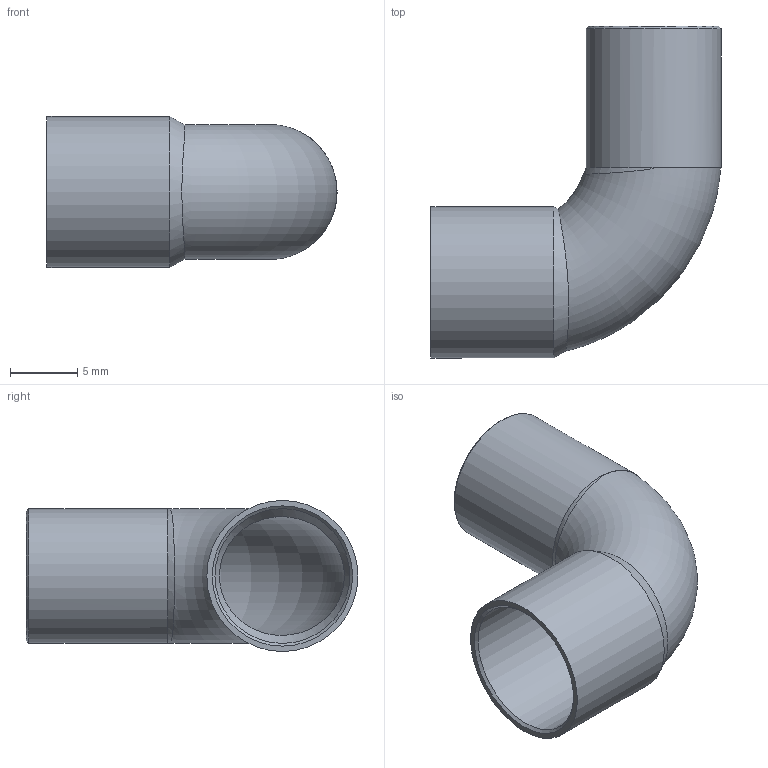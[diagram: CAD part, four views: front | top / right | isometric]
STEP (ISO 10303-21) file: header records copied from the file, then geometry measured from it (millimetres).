
FILE_DESCRIPTION(/* description */ (''),/* implementation_level */ '2;1');
FILE_NAME(/* name */ 'G:\Technik\Management\Bouwmaten + markeringen\z-maattekeningen 3D\5000\5092\1509210(0).stp',/* time_stamp */ '2022-08-17T15:36:26+02:00',/* author */ ('vdvijverd'),/* organization */ (''),/* preprocessor_version */ 'ST-DEVELOPER v19',/* originating_system */ 'Autodesk Inventor 2023',/* authorisation */ '');
FILE_SCHEMA (('AUTOMOTIVE_DESIGN { 1 0 10303 214 3 1 1 }'));
Length unit declared in the file: millimetre
Products named in the file (1): 1509210(0)_gem
Bounding box: 21.5 x 24.6 x 11.2 mm (x, y, z)
Volume: 585.8 mm3; surface area: 1979.1 mm2
Topology: 1 solids, 1 shells, 16 faces, 39 edges, 25 vertices
Faces by surface type: plane 5, cylinder 4, cone 4, torus 2, bspline 1
Full cylindrical faces by diameter (mm): 8.8 x1, 10 x2, 11.2 x1
Entity records: 897 total; most frequent: CARTESIAN_POINT 486, ORIENTED_EDGE 78, DIRECTION 74, EDGE_CURVE 39, AXIS2_PLACEMENT_3D 33, VERTEX_POINT 25, EDGE_LOOP 18, CIRCLE 17
